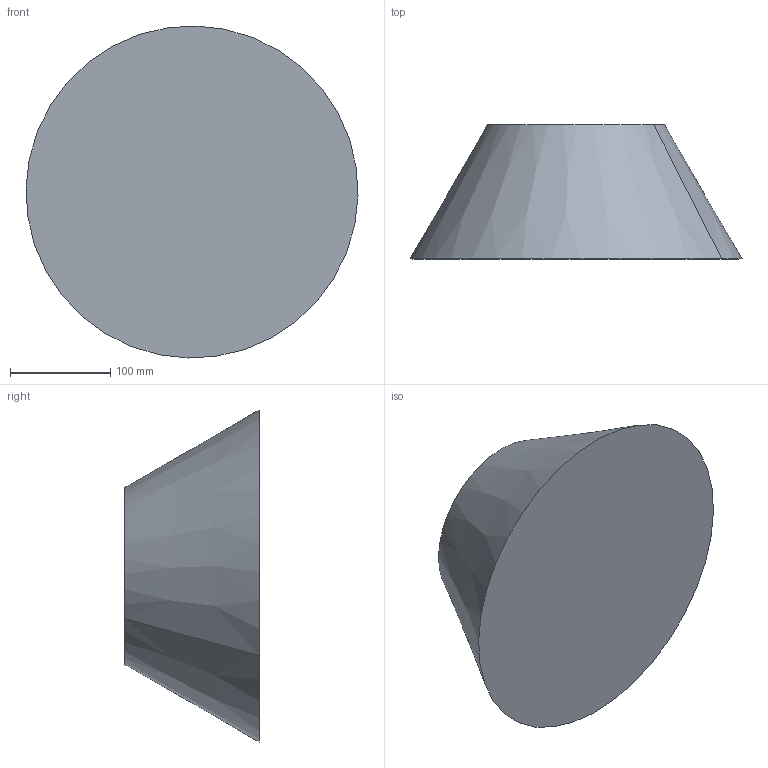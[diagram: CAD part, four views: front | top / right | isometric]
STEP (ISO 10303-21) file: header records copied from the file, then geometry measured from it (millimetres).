
FILE_DESCRIPTION(('CATIA V5 STEP Exchange'),'2;1');
FILE_NAME('C:\_Andres\UNIVERSIDAD\IQS\ASIGNATURAS\DAO\EXF\EXF-16172c\2inicio\Sastre_Cabrerizo_Ej09_v34.stp','2017-03-05T22:13:15+00:00',('none'),('none'),'CATIA Version 5-6 Release 2014 SP1 HF18','CATIA V5 STEP AP203','none');
FILE_SCHEMA(('CONFIG_CONTROL_DESIGN'));
Length unit declared in the file: millimetre
Products named in the file (1): Sastre_Cabrerizo_Ej09_v34
Bounding box: 331.91 x 134 x 331.91 mm (x, y, z)
Volume: 7025993.7 mm3; surface area: 237227.4 mm2
Topology: 1 solids, 2 shells, 8 faces, 12 edges, 8 vertices
Faces by surface type: plane 4, cone 2, cylinder 2
Entity records: 205 total; most frequent: CARTESIAN_POINT 27, DIRECTION 24, ORIENTED_EDGE 24, AXIS2_PLACEMENT_3D 15, EDGE_CURVE 12, ADVANCED_FACE 8, CIRCLE 8, EDGE_LOOP 8
